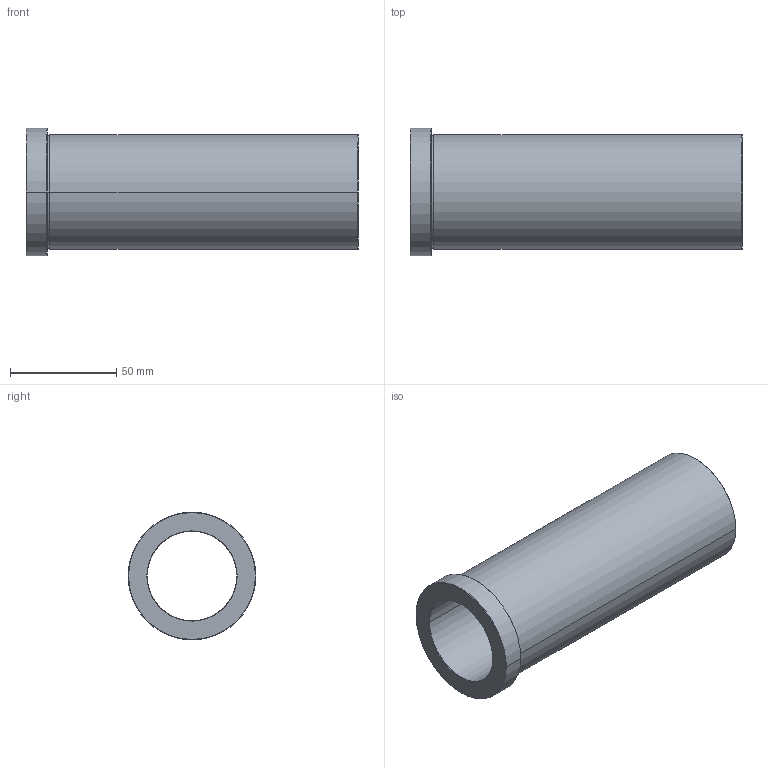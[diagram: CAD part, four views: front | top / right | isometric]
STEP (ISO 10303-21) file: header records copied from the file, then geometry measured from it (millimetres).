
FILE_DESCRIPTION (( 'STEP AP214' ), '1' );
FILE_NAME ('R03_156x42.STEP', '2015-03-05T14:48:38', ( 'TGL' ), ( '' ), 'SwSTEP 2.0', 'SolidWorks 2011', '' );
FILE_SCHEMA (( 'AUTOMOTIVE_DESIGN' ));
Length unit declared in the file: millimetre
Products named in the file (1): R03_156x42
Bounding box: 156 x 60 x 60 mm (x, y, z)
Volume: 145332.2 mm3; surface area: 49862.4 mm2
Topology: 1 solids, 1 shells, 23 faces, 46 edges, 26 vertices
Faces by surface type: cone 10, cylinder 8, plane 3, torus 2
Entity records: 700 total; most frequent: DIRECTION 122, CARTESIAN_POINT 96, ORIENTED_EDGE 92, AXIS2_PLACEMENT_3D 52, EDGE_CURVE 46, CIRCLE 28, VERTEX_POINT 26, EDGE_LOOP 26
